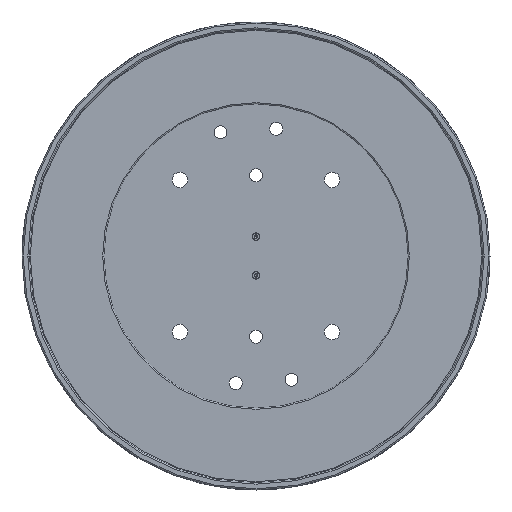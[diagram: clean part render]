
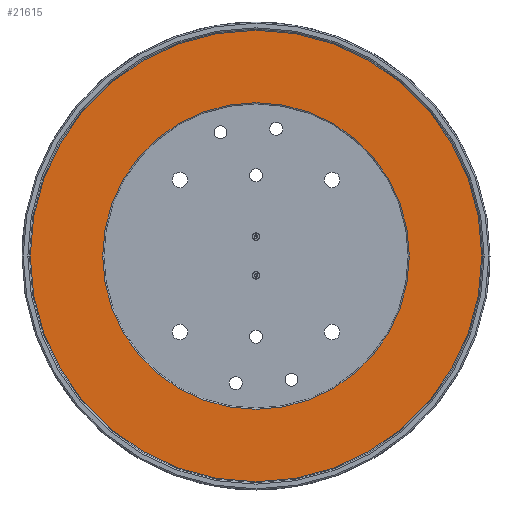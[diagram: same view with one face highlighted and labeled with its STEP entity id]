
A CAD part, front view. The second image highlights one B-rep face of the part: STEP entity #21615.
In plain terms, the highlighted planar face has unit normal (0, -1, 0).
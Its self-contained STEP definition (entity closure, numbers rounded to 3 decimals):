
#1067 = CARTESIAN_POINT ( 'NONE',  ( 0., 8., 0. ) ) ;
#1198 = AXIS2_PLACEMENT_3D ( 'NONE', #28716, #13046, #31329 ) ;
#1349 = ORIENTED_EDGE ( 'NONE', *, *, #10532, .T. ) ;
#2337 = CARTESIAN_POINT ( 'NONE',  ( 0., 8., 0. ) ) ;
#3888 = VERTEX_POINT ( 'NONE', #17979 ) ;
#4259 = CIRCLE ( 'NONE', #21647, 65.521 ) ;
#4950 = DIRECTION ( 'NONE',  ( 0., 0., -1. ) ) ;
#5404 = AXIS2_PLACEMENT_3D ( 'NONE', #2337, #20607, #4950 ) ;
#6820 = DIRECTION ( 'NONE',  ( 0., 1., 0. ) ) ;
#7612 = VERTEX_POINT ( 'NONE', #11858 ) ;
#8008 = CIRCLE ( 'NONE', #12276, 96.492 ) ;
#8946 = DIRECTION ( 'NONE',  ( 0., 0., -1. ) ) ;
#9636 = EDGE_LOOP ( 'NONE', ( #32009, #24234 ) ) ;
#10532 = EDGE_CURVE ( 'NONE', #21478, #7612, #25190, .T. ) ;
#11858 = CARTESIAN_POINT ( 'NONE',  ( 0., 8., -96.492 ) ) ;
#12276 = AXIS2_PLACEMENT_3D ( 'NONE', #14883, #33221, #17507 ) ;
#12740 = CARTESIAN_POINT ( 'NONE',  ( 0., 8., 65.521 ) ) ;
#13046 = DIRECTION ( 'NONE',  ( 0., 1., 0. ) ) ;
#14359 = VERTEX_POINT ( 'NONE', #12740 ) ;
#14883 = CARTESIAN_POINT ( 'NONE',  ( 0., 8., 0. ) ) ;
#16023 = ORIENTED_EDGE ( 'NONE', *, *, #16753, .T. ) ;
#16753 = EDGE_CURVE ( 'NONE', #7612, #21478, #8008, .T. ) ;
#17357 = EDGE_LOOP ( 'NONE', ( #16023, #1349 ) ) ;
#17507 = DIRECTION ( 'NONE',  ( 0., 0., -1. ) ) ;
#17979 = CARTESIAN_POINT ( 'NONE',  ( 0., 8., -65.521 ) ) ;
#19221 = AXIS2_PLACEMENT_3D ( 'NONE', #1067, #24608, #8946 ) ;
#20607 = DIRECTION ( 'NONE',  ( 0., -1., 0. ) ) ;
#21478 = VERTEX_POINT ( 'NONE', #29147 ) ;
#21615 = ADVANCED_FACE ( 'NONE', ( #27520, #28324 ), #32392, .T. ) ;
#21647 = AXIS2_PLACEMENT_3D ( 'NONE', #22467, #6820, #25121 ) ;
#22467 = CARTESIAN_POINT ( 'NONE',  ( 0., 8., 0. ) ) ;
#24234 = ORIENTED_EDGE ( 'NONE', *, *, #33133, .T. ) ;
#24608 = DIRECTION ( 'NONE',  ( 0., -1., 0. ) ) ;
#25121 = DIRECTION ( 'NONE',  ( 0., 0., -1. ) ) ;
#25190 = CIRCLE ( 'NONE', #5404, 96.492 ) ;
#27520 = FACE_OUTER_BOUND ( 'NONE', #17357, .T. ) ;
#28324 = FACE_BOUND ( 'NONE', #9636, .T. ) ;
#28565 = EDGE_CURVE ( 'NONE', #3888, #14359, #4259, .T. ) ;
#28716 = CARTESIAN_POINT ( 'NONE',  ( 0., 8., 0. ) ) ;
#29147 = CARTESIAN_POINT ( 'NONE',  ( 0., 8., 96.492 ) ) ;
#31329 = DIRECTION ( 'NONE',  ( 0., 0., -1. ) ) ;
#32009 = ORIENTED_EDGE ( 'NONE', *, *, #28565, .T. ) ;
#32392 = PLANE ( 'NONE',  #19221 ) ;
#33133 = EDGE_CURVE ( 'NONE', #14359, #3888, #33621, .T. ) ;
#33221 = DIRECTION ( 'NONE',  ( 0., -1., 0. ) ) ;
#33621 = CIRCLE ( 'NONE', #1198, 65.521 ) ;
